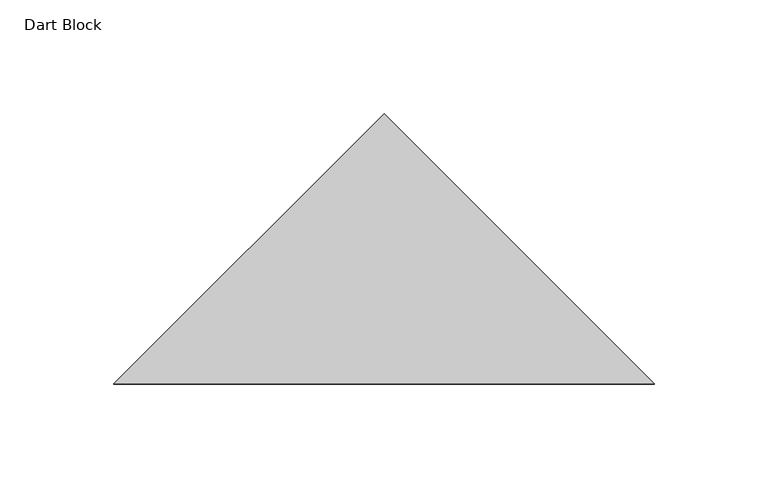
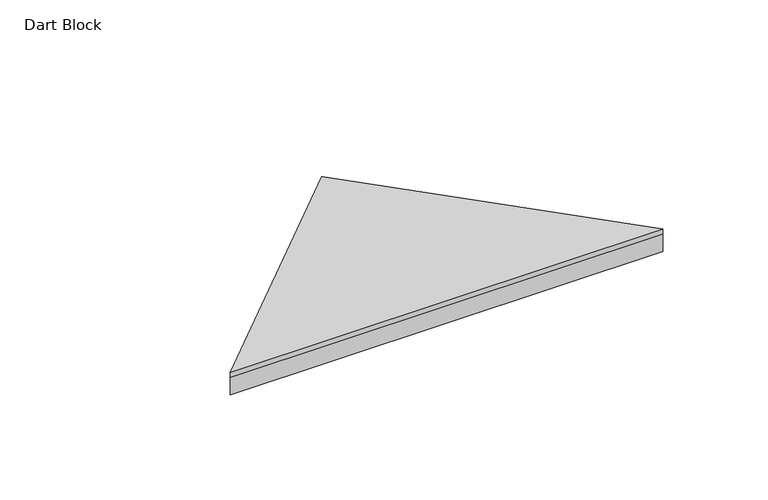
"""IFC4 building model written with IfcOpenShell, lengths in millimetres: proxy geometry, FilzFelt_Dart_Block : Dart Block."""

from ifc_helpers import new_model, si_unit, frame, origin, origin_with_axes, place, context, project, spatial, polyline, outline, extrude, source, transform, mapped, element, save


def dart_block_226adf6a(model_context):
    return source(origin(), model_context, "Body", "SweptSolid", [
        extrude(outline(polyline([(0.0, 190.5), (118.5423284, 71.9576716), (-118.5423284, 71.9576716), (0.0, 190.5)])), frame((0.0, 0.0, 10.0210937), z_axis=(0.0, 0.0, 1.0), x_axis=(1.0, 0.0, 0.0)), (0.0, 0.0, 1.0), 2.9765625),
        extrude(outline(polyline([(-118.5423284, 71.9576716), (0.0, 190.5), (118.5423284, 71.9576716), (-118.5423284, 71.9576716)])), origin_with_axes(), (0.0, 0.0, 1.0), 10.0210938),
    ])


if __name__ == "__main__":
    model = new_model("IFC4")
    model_context = context("Model", 3, world=origin())
    ifc_project = project(units=[si_unit("LENGTHUNIT", "METRE", prefix="MILLI")], contexts=[model_context])
    site = spatial("IfcSite", under=ifc_project)
    building = spatial("IfcBuilding", under=site)
    placement = place(None, origin())
    dart_block_shape = dart_block_226adf6a(model_context)
    element("IfcBuildingElementProxy", 1, Name="FilzFelt_Dart_Block : Dart Block", ObjectType="FilzFelt_Dart_Block : Dart Block", at=placement, inside=building, context=model_context, shape_type="MappedRepresentation", body=[
        mapped(dart_block_shape, transform((0.0, 0.0, 0.0), x_axis=(1.0, 0.0, 0.0), y_axis=(0.0, 1.0, 0.0), z_axis=(0.0, 0.0, 1.0))),
    ])
    save(model, "model.ifc")
